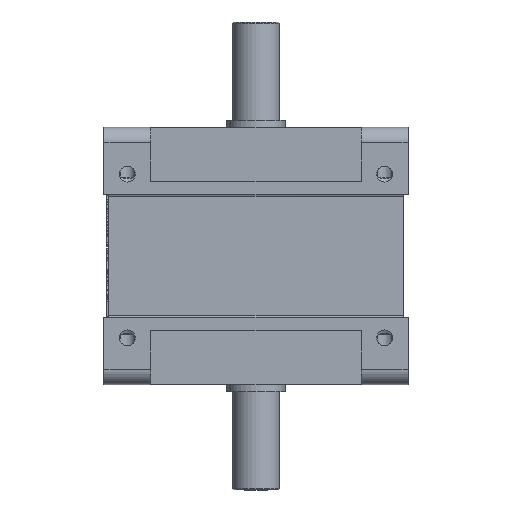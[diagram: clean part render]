
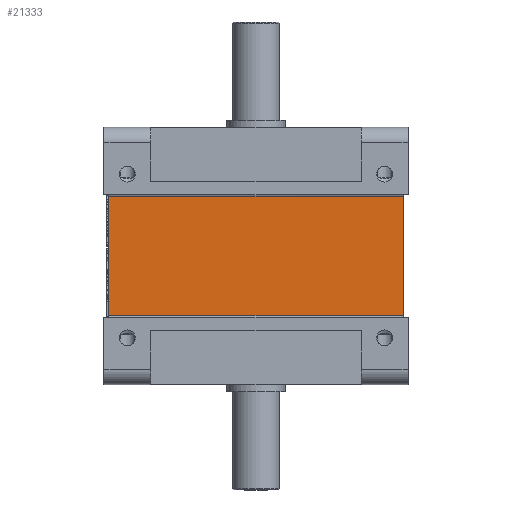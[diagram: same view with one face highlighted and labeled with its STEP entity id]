
A CAD part, front view. The second image highlights one B-rep face of the part: STEP entity #21333.
In plain terms, the highlighted planar face has unit normal (0, -1, 0).
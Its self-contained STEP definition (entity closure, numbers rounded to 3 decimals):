
#69 = CARTESIAN_POINT ( 'NONE',  ( 62.888, -127.888, 25.583 ) ) ;
#926 = EDGE_LOOP ( 'NONE', ( #43830, #55167, #29433, #2557 ) ) ;
#1541 = VERTEX_POINT ( 'NONE', #50031 ) ;
#2318 = EDGE_CURVE ( 'NONE', #23041, #45748, #58876, .T. ) ;
#2358 = CARTESIAN_POINT ( 'NONE',  ( 62.888, -127.888, -26.25 ) ) ;
#2557 = ORIENTED_EDGE ( 'NONE', *, *, #7847, .T. ) ;
#3458 = VECTOR ( 'NONE', #25669, 1000. ) ;
#5053 = DIRECTION ( 'NONE',  ( 0., 0., -1. ) ) ;
#5443 = EDGE_CURVE ( 'NONE', #1541, #45748, #39188, .T. ) ;
#7847 = EDGE_CURVE ( 'NONE', #1541, #42969, #50462, .T. ) ;
#14696 = FACE_OUTER_BOUND ( 'NONE', #926, .T. ) ;
#14800 = VECTOR ( 'NONE', #48045, 1000. ) ;
#15819 = VECTOR ( 'NONE', #35596, 1000. ) ;
#15879 = CARTESIAN_POINT ( 'NONE',  ( -62.888, -127.888, -25.583 ) ) ;
#19382 = CARTESIAN_POINT ( 'NONE',  ( -62.888, -127.888, 25.583 ) ) ;
#21333 = ADVANCED_FACE ( 'NONE', ( #14696 ), #46835, .T. ) ;
#23041 = VERTEX_POINT ( 'NONE', #69 ) ;
#23627 = CARTESIAN_POINT ( 'NONE',  ( -62.888, -127.888, -26.25 ) ) ;
#24901 = AXIS2_PLACEMENT_3D ( 'NONE', #23627, #32961, #5053 ) ;
#25669 = DIRECTION ( 'NONE',  ( 0., 0., 1. ) ) ;
#29433 = ORIENTED_EDGE ( 'NONE', *, *, #5443, .F. ) ;
#30483 = DIRECTION ( 'NONE',  ( 0., 0., -1. ) ) ;
#32961 = DIRECTION ( 'NONE',  ( 0., -1., 0. ) ) ;
#35596 = DIRECTION ( 'NONE',  ( -1., 0., 0. ) ) ;
#37761 = LINE ( 'NONE', #2358, #59691 ) ;
#39188 = LINE ( 'NONE', #53567, #3458 ) ;
#42969 = VERTEX_POINT ( 'NONE', #59050 ) ;
#43830 = ORIENTED_EDGE ( 'NONE', *, *, #44871, .F. ) ;
#44871 = EDGE_CURVE ( 'NONE', #23041, #42969, #37761, .T. ) ;
#45748 = VERTEX_POINT ( 'NONE', #19382 ) ;
#46835 = PLANE ( 'NONE',  #24901 ) ;
#48045 = DIRECTION ( 'NONE',  ( 1., 0., 0. ) ) ;
#50031 = CARTESIAN_POINT ( 'NONE',  ( -62.888, -127.888, -25.583 ) ) ;
#50462 = LINE ( 'NONE', #15879, #14800 ) ;
#53567 = CARTESIAN_POINT ( 'NONE',  ( -62.888, -127.888, -26.25 ) ) ;
#54129 = CARTESIAN_POINT ( 'NONE',  ( -62.888, -127.888, 25.583 ) ) ;
#55167 = ORIENTED_EDGE ( 'NONE', *, *, #2318, .T. ) ;
#58876 = LINE ( 'NONE', #54129, #15819 ) ;
#59050 = CARTESIAN_POINT ( 'NONE',  ( 62.888, -127.888, -25.583 ) ) ;
#59691 = VECTOR ( 'NONE', #30483, 1000. ) ;
